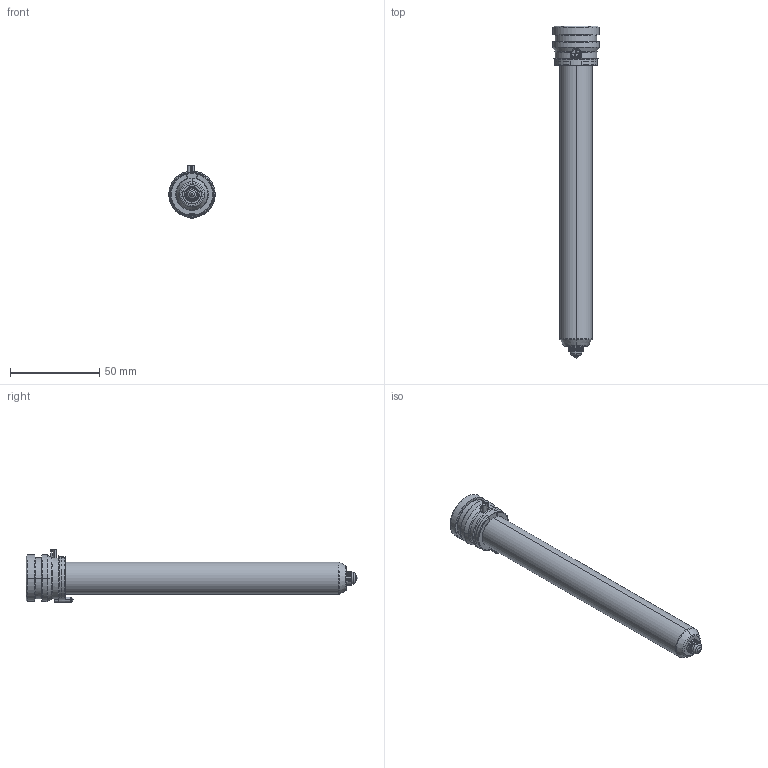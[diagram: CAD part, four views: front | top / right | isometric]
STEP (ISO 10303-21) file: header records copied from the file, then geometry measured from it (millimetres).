
FILE_DESCRIPTION((''),'2;1');
FILE_NAME('TH18167_5-A-1B15-PK-JG','2023-12-14T',('umhib'),('Thermoplay S.p.A.'),'PRO/ENGINEER BY PARAMETRIC TECHNOLOGY CORPORATION, 2017170','PRO/ENGINEER BY PARAMETRIC TECHNOLOGY CORPORATION, 2017170','');
FILE_SCHEMA(('CONFIG_CONTROL_DESIGN'));
Length unit declared in the file: millimetre
Products named in the file (1): TH18167_5-A-1B15-PK-JG
Bounding box: 26 x 185.5 x 29.5 mm (x, y, z)
Volume: 36745.1 mm3; surface area: 26735 mm2
Topology: 1 solids, 2 shells, 398 faces, 1036 edges, 643 vertices
Faces by surface type: cylinder 151, plane 85, cone 68, torus 56, bspline 24, sphere 12, extrusion 2
Entity records: 18086 total; most frequent: CARTESIAN_POINT 6121, ORIENTED_EDGE 2048, DIRECTION 2031, EDGE_CURVE 1026, AXIS2_PLACEMENT_3D 815, VERTEX_POINT 643, CIRCLE 442, EDGE_LOOP 418
